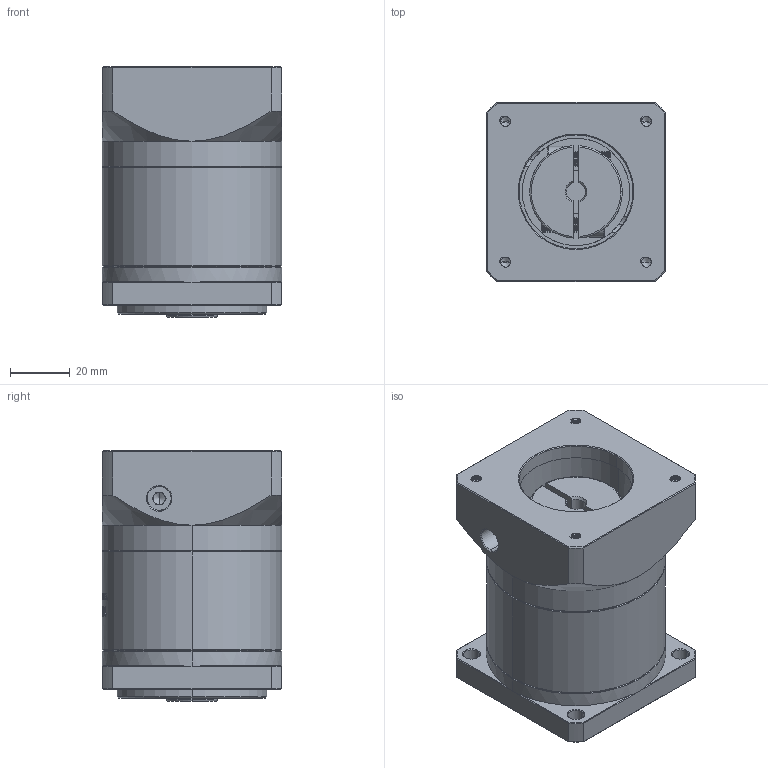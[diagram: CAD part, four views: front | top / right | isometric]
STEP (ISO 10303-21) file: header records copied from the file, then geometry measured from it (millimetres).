
FILE_DESCRIPTION (( 'STEP AP214' ), '1' );
FILE_NAME ('ZF60-K10-L1-6.35-38.1-47.14X47.14-M4.STEP', '2022-04-17T11:23:42', ( '' ), ( 'Microsoft' ), 'SwSTEP 2.0', 'SolidWorks 2016', '' );
FILE_SCHEMA (( 'AUTOMOTIVE_DESIGN' ));
Length unit declared in the file: millimetre
Products named in the file (1): ZF60-K10-L1-6.35-38.1-47.14X47.14-M4
Bounding box: 60 x 60 x 84 mm (x, y, z)
Volume: 219624.6 mm3; surface area: 42699.8 mm2
Topology: 6 solids, 6 shells, 1552 faces, 4199 edges, 2722 vertices
Faces by surface type: plane 737, bspline 292, cylinder 284, cone 221, torus 18
Entity records: 82552 total; most frequent: CARTESIAN_POINT 29821, ORIENTED_EDGE 8374, DIRECTION 6188, EDGE_CURVE 4187, VERTEX_POINT 2722, VECTOR 2152, LINE 2152, AXIS2_PLACEMENT_3D 2018
